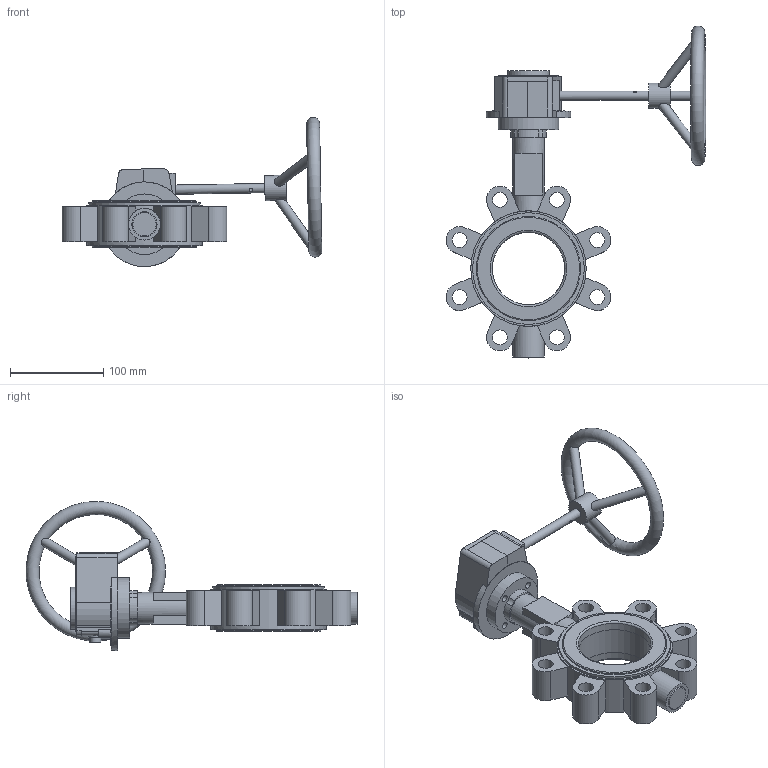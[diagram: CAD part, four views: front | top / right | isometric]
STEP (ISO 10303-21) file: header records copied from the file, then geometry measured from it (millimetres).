
FILE_DESCRIPTION (( 'STEP AP203' ), '1' );
FILE_NAME ('2502 LT型中线衬胶带销 手动头蝶阀 DN80 PN16 CD0309117.STEP', '2026-03-25T02:09:20', ( '' ), ( '' ), 'SwSTEP 2.0', 'SolidWorks 2018', '' );
FILE_SCHEMA (( 'CONFIG_CONTROL_DESIGN' ));
Length unit declared in the file: millimetre
Products named in the file (5): 2502 LT型中线衬胶带销 手动头蝶阀 DN80 PN16 CD0309117; GALA-D80-01LC(1)-00; DIN908 塞堵M20×1.5; G12L忒雄芛 潠趙; GALA-D80-04AZC-00
Assembly tree (4 placements, depth 2):
  2502 LT型中线衬胶带销 手动头蝶阀 DN80 PN16 CD0309117
    GALA-D80-04AZC-00
    DIN908 塞堵M20×1.5
    GALA-D80-01LC(1)-00
    G12L忒雄芛 潠趙
Bounding box: 278.89 x 356.5 x 160.17 mm (x, y, z)
Volume: 1084350.7 mm3; surface area: 219307 mm2
Topology: 5 solids, 10 shells, 280 faces, 708 edges, 465 vertices
Faces by surface type: cylinder 129, plane 127, torus 9, cone 7, bspline 6, sphere 2
Full cylindrical faces by diameter (mm): 4 x1, 7 x4, 10 x5, 12 x2, 16 x8, 20 x1, 25 x1, 27 x2, 31.6 x1, 34 x3, 45 x1, 65 x1, 77.716 x1, 87 x2, 91 x1, 112 x4, 120 x1, 124 x1
Entity records: 9805 total; most frequent: CARTESIAN_POINT 2938, DIRECTION 1294, ORIENTED_EDGE 1270, EDGE_CURVE 635, AXIS2_PLACEMENT_3D 503, VERTEX_POINT 449, EDGE_LOOP 390, FACE_OUTER_BOUND 327
